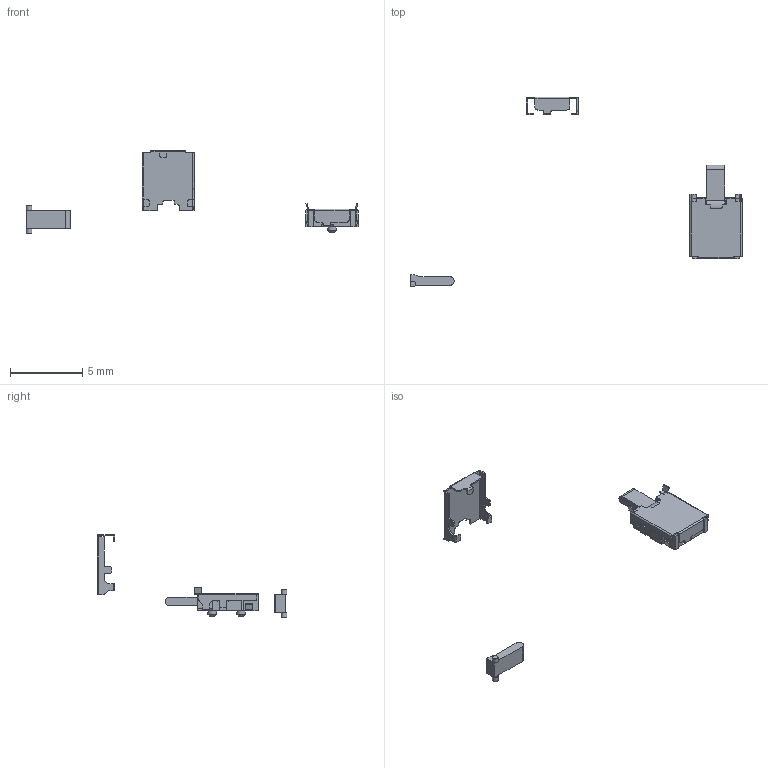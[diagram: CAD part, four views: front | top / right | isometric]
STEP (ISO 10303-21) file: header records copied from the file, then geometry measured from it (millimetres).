
FILE_DESCRIPTION( ( 'Unknown' ), '1' );
FILE_NAME( '//Ntcw022/edgesv/fsw/ユーザ提出用データ/ﾃﾞｨﾃｸﾀｰｽｲｯﾁ/ESE13/ese13h01b-std-sk.stp', 'Unknown', ( 'Unknown' ), ( 'Unknown' ), 'PSStep 10.0', 'Unknown', ' ' );
FILE_SCHEMA( ( 'AUTOMOTIVE_DESIGN { 1 0 10303 214 1 1 1 1 }' ) );
Length unit declared in the file: millimetre
Products named in the file (6): Assem1; sw-131-e13cs-boss-sk; sw-131-e13lv5-sk; sw-131-e13fm-sk; sw-131-e13ts-j-sk
Bounding box: 22.93 x 13.11 x 5.73 mm (x, y, z)
Volume: 38.1 mm3; surface area: 220.2 mm2
Topology: 10 solids, 10 shells, 376 faces, 1016 edges, 672 vertices
Faces by surface type: plane 286, cylinder 86, cone 4
Full cylindrical faces by diameter (mm): 0.01 x8, 0.4 x4, 0.6 x4
Entity records: 7237 total; most frequent: CARTESIAN_POINT 1020, ORIENTED_EDGE 988, DIRECTION 974, EDGE_CURVE 494, LINE 402, VECTOR 402, VERTEX_POINT 332, AXIS2_PLACEMENT_3D 286
